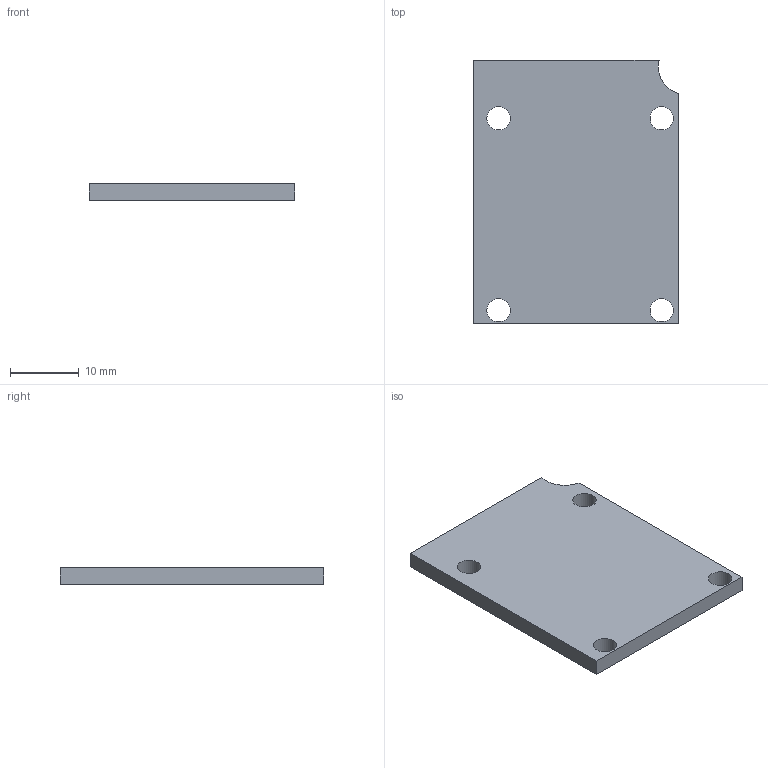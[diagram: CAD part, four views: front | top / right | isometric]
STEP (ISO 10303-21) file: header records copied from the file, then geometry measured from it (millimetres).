
FILE_DESCRIPTION(('FreeCAD Model'),'2;1');
FILE_NAME('Open CASCADE Shape Model','2026-11-16T14:52:49',('FreeCAD'),( 'FreeCAD'),'Open CASCADE STEP processor 7.9','FreeCAD','Unknown');
FILE_SCHEMA(('AUTOMOTIVE_DESIGN { 1 0 10303 214 1 1 1 1 }'));
Length unit declared in the file: millimetre
Products named in the file (1): Open CASCADE STEP translator 7.9 4
Bounding box: 30 x 38.5 x 2.4 mm (x, y, z)
Volume: 2657.1 mm3; surface area: 2642.1 mm2
Topology: 1 solids, 1 shells, 11 faces, 27 edges, 18 vertices
Faces by surface type: plane 6, cylinder 5
Full cylindrical faces by diameter (mm): 3.4 x4
Entity records: 357 total; most frequent: DIRECTION 61, CARTESIAN_POINT 57, ORIENTED_EDGE 54, EDGE_CURVE 27, AXIS2_PLACEMENT_3D 22, FACE_BOUND 19, EDGE_LOOP 19, VERTEX_POINT 18
